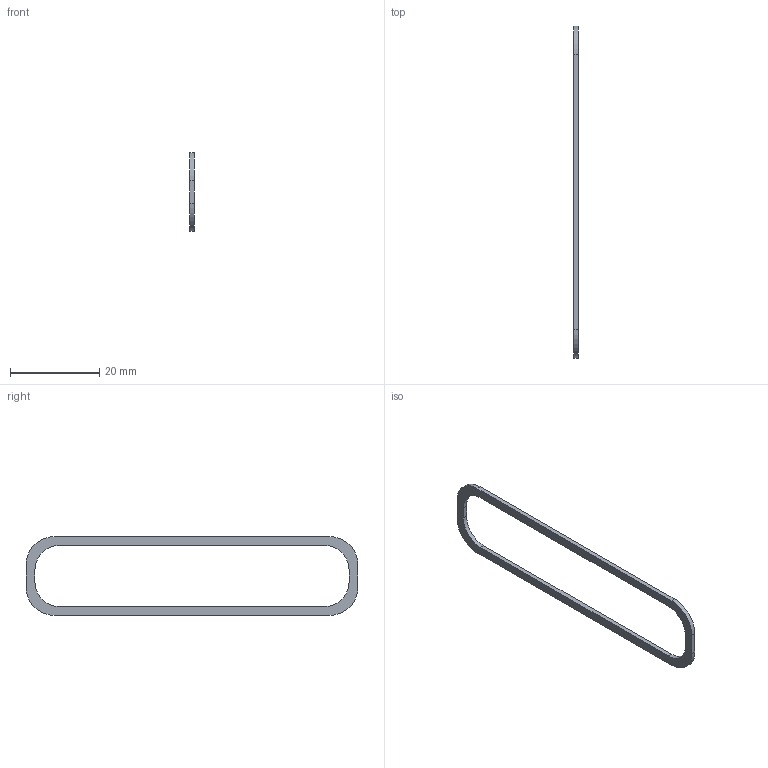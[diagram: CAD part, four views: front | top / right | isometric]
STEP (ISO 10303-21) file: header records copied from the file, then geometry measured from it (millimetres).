
FILE_DESCRIPTION(('Open CASCADE Model'),'2;1');
FILE_NAME('Open CASCADE Shape Model','2026-09-04T20:35:59',('Author'),( 'Open CASCADE'),'Open CASCADE STEP processor 7.7','Open CASCADE 7.7' ,'Unknown');
FILE_SCHEMA(('AUTOMOTIVE_DESIGN { 1 0 10303 214 1 1 1 1 }'));
Length unit declared in the file: millimetre
Products named in the file (1): Open CASCADE STEP translator 7.7 12
Bounding box: 1 x 74.2 x 17.6 mm (x, y, z)
Volume: 342.2 mm3; surface area: 1015.4 mm2
Topology: 1 solids, 1 shells, 18 faces, 48 edges, 32 vertices
Faces by surface type: plane 10, cylinder 8
Entity records: 1242 total; most frequent: CARTESIAN_POINT 267, DIRECTION 186, LINE 112, VECTOR 112, ORIENTED_EDGE 96, PCURVE 96, DEFINITIONAL_REPRESENTATION 96, EDGE_CURVE 48
